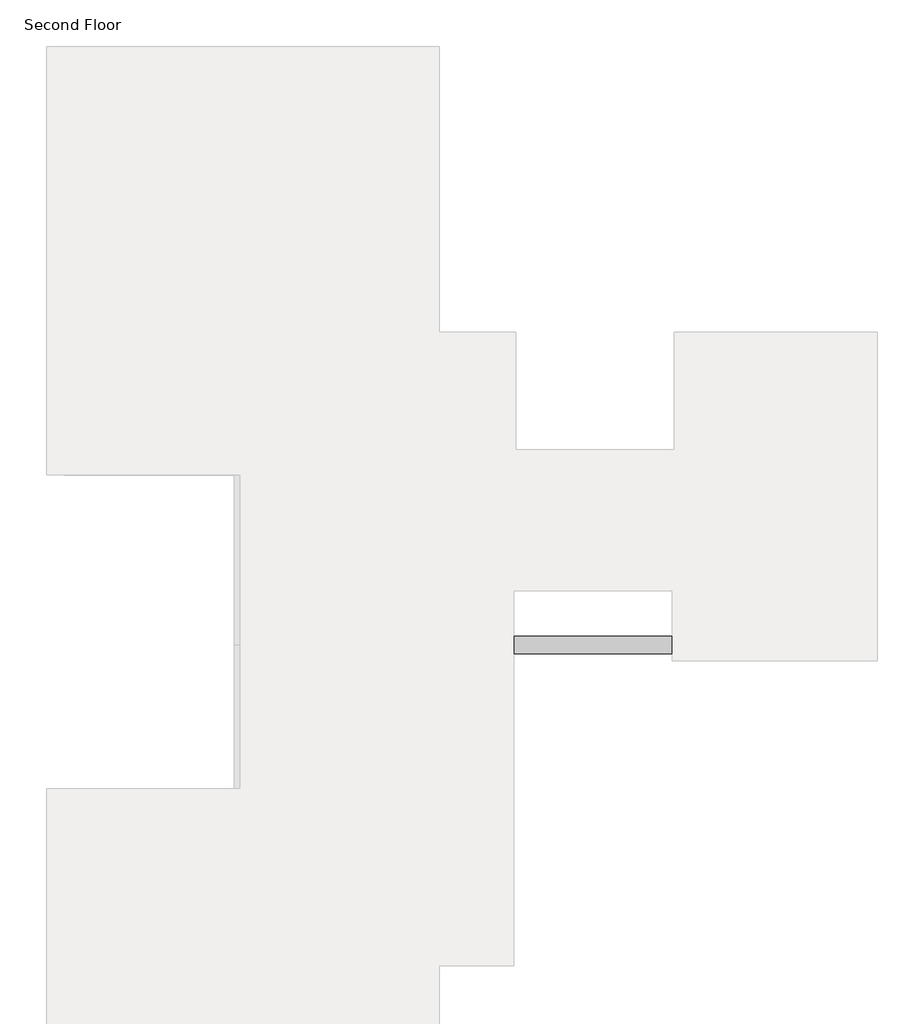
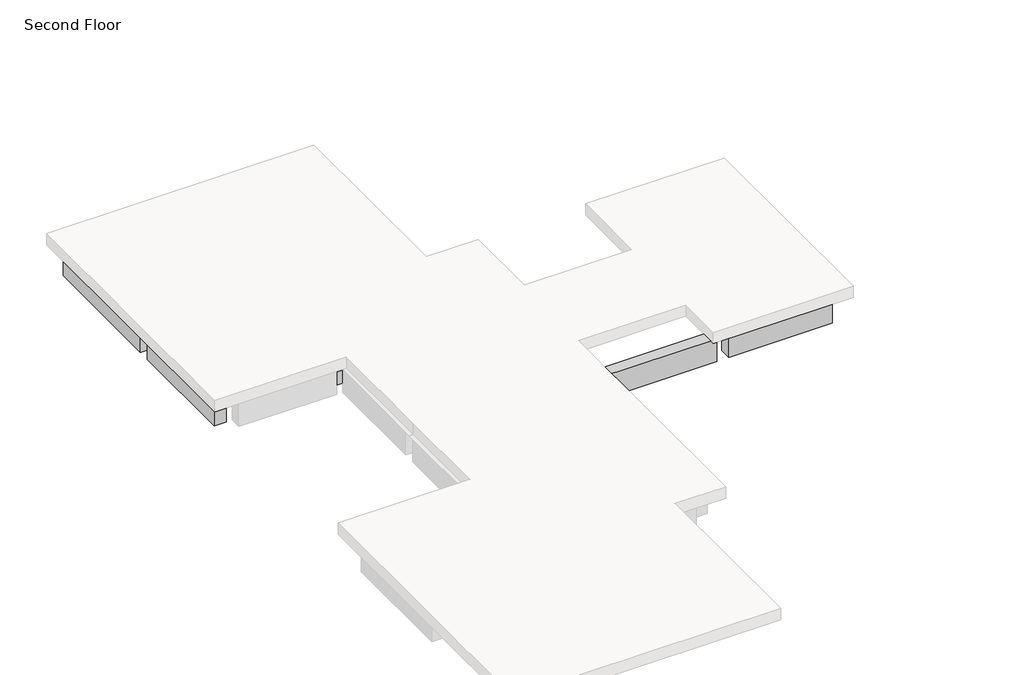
# One storey, part 2 of 2: 20 beams.
"""IFC4 building model written with IfcOpenShell, lengths in millimetres."""

from ifc_helpers import new_model, si_unit, frame, origin, place, context, project, spatial, polyline, outline, extrude, faceted_brep, element, save

model = new_model("IFC4")

# Units and contexts
model_context = context("Model", 3, world=origin())
ifc_project = project(units=[si_unit("LENGTHUNIT", "METRE", prefix="MILLI")], contexts=[model_context])

# Site, building, storey
site = spatial("IfcSite", under=ifc_project)
building = spatial("IfcBuilding", under=site)
storey = spatial("IfcBuildingStorey", under=building, Name="Second Floor", Elevation=3810.0)

# Beams
placement = place(None, origin())
element("IfcBeam", 1, ObjectType="M_Concrete-Rectangular Beam : 300 x 600mm", at=placement, inside=storey, context=model_context, shape_type="Brep", body=[
    faceted_brep([(-9783.3472303, 14876.016665, 3510.0), (-12831.3472303, 14876.016665, 3510.0), (-12831.3472303, 14726.016665, 3510.0), (-12831.3472303, 14576.016665, 3510.0), (-12681.3472303, 14576.016665, 3510.0), (-9933.3472303, 14576.016665, 3510.0), (-9783.3472303, 14576.016665, 3510.0), (-9783.3472303, 14726.016665, 3510.0), (-12831.3472303, 14576.016665, 3505.2), (-12531.3472303, 14576.016665, 3505.2), (-12531.3472303, 14576.016665, 2910.0), (-10083.3472303, 14576.016665, 2910.0), (-10083.3472303, 14576.016665, 3505.2), (-9783.3472303, 14576.016665, 3505.2), (-12531.3472303, 14876.016665, 2910.0), (-10083.3472303, 14876.016665, 2910.0), (-9783.3472303, 14876.016665, 3505.2), (-10083.3472303, 14876.016665, 3505.2), (-12531.3472303, 14876.016665, 3505.2), (-12831.3472303, 14876.016665, 3505.2), (-12831.3472303, 14726.016665, 3505.2), (-9783.3472303, 14726.016665, 3505.2)], [[[0, 1, 2, 3, 4, 5, 6, 7]], [[6, 5, 4, 3, 8, 9, 10, 11, 12, 13]], [[10, 14, 15, 11]], [[1, 0, 16, 17, 15, 14, 18, 19]], [[9, 18, 14, 10]], [[18, 9, 8, 20, 19]], [[17, 12, 11, 15]], [[12, 17, 16, 21, 13]], [[3, 2, 1, 19, 20, 8]], [[0, 7, 6, 13, 21, 16]]]),
])
element("IfcBeam", 2, ObjectType="M_Concrete-Rectangular Beam : 300 x 600mm", at=placement, inside=storey, context=model_context, shape_type="Brep", body=[
    faceted_brep([(-6735.3472303, 14876.016665, 3510.0), (-9783.3472303, 14876.016665, 3510.0), (-9783.3472303, 14726.016665, 3510.0), (-9633.3472303, 14726.016665, 3510.0), (-9633.3472303, 14576.016665, 3510.0), (-6885.3472303, 14576.016665, 3510.0), (-6735.3472303, 14576.016665, 3510.0), (-6735.3472303, 14726.016665, 3510.0), (-9483.3472303, 14576.016665, 3505.2), (-9483.3472303, 14576.016665, 2910.0), (-7035.3472303, 14576.016665, 2910.0), (-7035.3472303, 14576.016665, 3505.2), (-6735.3472303, 14576.016665, 3505.2), (-9633.3472303, 14576.016665, 3505.2), (-9483.3472303, 14876.016665, 2910.0), (-7035.3472303, 14876.016665, 2910.0), (-6735.3472303, 14876.016665, 3505.2), (-7035.3472303, 14876.016665, 3505.2), (-9483.3472303, 14876.016665, 3505.2), (-9783.3472303, 14876.016665, 3505.2), (-9633.3472303, 14726.016665, 3505.2), (-9783.3472303, 14726.016665, 3505.2), (-6735.3472303, 14726.016665, 3505.2)], [[[0, 1, 2, 3, 4, 5, 6, 7]], [[8, 9, 10, 11, 12, 6, 5, 4, 13]], [[9, 14, 15, 10]], [[1, 0, 16, 17, 15, 14, 18, 19]], [[8, 18, 14, 9]], [[18, 8, 13, 20, 21, 19]], [[17, 11, 10, 15]], [[11, 17, 16, 22, 12]], [[3, 20, 13, 4]], [[1, 19, 21, 2]], [[0, 7, 6, 12, 22, 16]], [[20, 3, 2, 21]]]),
])
element("IfcBeam", 3, ObjectType="M_Concrete-Rectangular Beam : 300 x 600mm", at=placement, inside=storey, context=model_context, shape_type="Brep", body=[
    faceted_brep([(-6585.3472303, 11069.016665, 3510.0), (-6585.3472303, 14726.016665, 3510.0), (-6735.3472303, 14726.016665, 3510.0), (-6735.3472303, 14576.016665, 3510.0), (-6885.3472303, 14576.016665, 3510.0), (-6885.3472303, 11219.016665, 3510.0), (-6885.3472303, 11069.016665, 3510.0), (-6735.3472303, 11069.016665, 3510.0), (-6885.3472303, 14576.016665, 2910.0), (-6885.3472303, 11219.016665, 2910.0), (-6885.3472303, 11219.016665, 3505.2), (-6885.3472303, 11069.016665, 3505.2), (-6585.3472303, 14576.016665, 2910.0), (-6585.3472303, 11219.016665, 2910.0), (-6585.3472303, 11069.016665, 3505.2), (-6585.3472303, 11219.016665, 3505.2), (-6585.3472303, 14576.016665, 3505.2), (-6585.3472303, 14726.016665, 3505.2), (-6735.3472303, 14576.016665, 3505.2), (-6735.3472303, 14726.016665, 3505.2), (-6735.3472303, 11069.016665, 3505.2)], [[[0, 1, 2, 3, 4, 5, 6, 7]], [[6, 5, 4, 8, 9, 10, 11]], [[8, 12, 13, 9]], [[1, 0, 14, 15, 13, 12, 16, 17]], [[4, 3, 18, 16, 12, 8]], [[16, 18, 19, 17]], [[15, 10, 9, 13]], [[10, 15, 14, 20, 11]], [[2, 1, 17, 19]], [[0, 7, 6, 11, 20, 14]], [[3, 2, 19, 18]]]),
])
element("IfcBeam", 4, ObjectType="M_Concrete-Rectangular Beam : 300 x 600mm", at=placement, inside=storey, context=model_context, shape_type="Brep", body=[
    faceted_brep([(-6585.3472303, 9700.016665, 3510.0), (-6585.3472303, 10000.016665, 3510.0), (-6585.3472303, 11069.016665, 3510.0), (-6735.3472303, 11069.016665, 3510.0), (-6735.3472303, 10919.016665, 3510.0), (-6885.3472303, 10919.016665, 3510.0), (-6885.3472303, 9700.016665, 3510.0), (-6885.3472303, 9700.016665, 2910.0), (-6885.3472303, 10919.016665, 2910.0), (-6585.3472303, 9700.016665, 2910.0), (-6585.3472303, 10919.016665, 2910.0), (-6585.3472303, 10000.016665, 2910.0), (-6585.3472303, 10919.016665, 3505.2), (-6585.3472303, 11069.016665, 3505.2), (-6735.3472303, 11069.016665, 3505.2), (-6735.3472303, 10919.016665, 3505.2)], [[[0, 1, 2, 3, 4, 5, 6]], [[7, 6, 5, 8]], [[9, 7, 8, 10, 11]], [[2, 1, 0, 9, 11, 10, 12, 13]], [[2, 13, 14, 3]], [[0, 6, 7, 9]], [[5, 4, 15, 12, 10, 8]], [[13, 12, 15, 14]], [[15, 4, 3, 14]]]),
])
element("IfcBeam", 5, ObjectType="M_Concrete-Rectangular Beam : 300 x 600mm", at=placement, inside=storey, context=model_context, shape_type="Brep", body=[
    faceted_brep([(-6585.3472303, 10000.016665, 3510.0), (-6585.3472303, 9700.016665, 3510.0), (-5666.3472303, 9700.016665, 3510.0), (-5516.3472303, 9700.016665, 3510.0), (-5516.3472303, 9850.016665, 3510.0), (-5516.3472303, 10000.016665, 3510.0), (-6585.3472303, 9700.016665, 2910.0), (-5816.3472303, 9700.016665, 2910.0), (-5816.3472303, 9700.016665, 3505.2), (-5516.3472303, 9700.016665, 3505.2), (-6585.3472303, 10000.016665, 2910.0), (-5816.3472303, 10000.016665, 2910.0), (-5516.3472303, 10000.016665, 3505.2), (-5816.3472303, 10000.016665, 3505.2), (-5516.3472303, 9850.016665, 3505.2)], [[[0, 1, 2, 3, 4, 5]], [[3, 2, 1, 6, 7, 8, 9]], [[6, 10, 11, 7]], [[10, 0, 5, 12, 13, 11]], [[1, 0, 10, 6]], [[13, 8, 7, 11]], [[8, 13, 12, 14, 9]], [[5, 4, 3, 9, 14, 12]]]),
])
element("IfcBeam", 6, ObjectType="M_Concrete-Rectangular Beam : 300 x 600mm", at=placement, inside=storey, context=model_context, shape_type="Brep", body=[
    faceted_brep([(-5366.3472303, 7869.016665, 3510.0), (-5366.3472303, 8019.016665, 3510.0), (-5366.3472303, 9850.016665, 3510.0), (-5516.3472303, 9850.016665, 3510.0), (-5516.3472303, 9700.016665, 3510.0), (-5666.3472303, 9700.016665, 3510.0), (-5666.3472303, 8019.016665, 3510.0), (-5666.3472303, 7869.016665, 3510.0), (-5516.3472303, 7869.016665, 3510.0), (-5666.3472303, 9700.016665, 2910.0), (-5666.3472303, 8019.016665, 2910.0), (-5666.3472303, 8019.016665, 3505.2), (-5666.3472303, 7869.016665, 3505.2), (-5366.3472303, 9700.016665, 2910.0), (-5366.3472303, 8019.016665, 2910.0), (-5366.3472303, 7869.016665, 3505.2), (-5366.3472303, 8019.016665, 3505.2), (-5366.3472303, 9700.016665, 3505.2), (-5366.3472303, 9850.016665, 3505.2), (-5516.3472303, 9700.016665, 3505.2), (-5516.3472303, 9850.016665, 3505.2), (-5516.3472303, 7869.016665, 3505.2)], [[[0, 1, 2, 3, 4, 5, 6, 7, 8]], [[7, 6, 5, 9, 10, 11, 12]], [[9, 13, 14, 10]], [[2, 1, 0, 15, 16, 14, 13, 17, 18]], [[5, 4, 19, 17, 13, 9]], [[17, 19, 20, 18]], [[16, 11, 10, 14]], [[11, 16, 15, 21, 12]], [[3, 2, 18, 20]], [[0, 8, 7, 12, 21, 15]], [[4, 3, 20, 19]]]),
])
element("IfcBeam", 7, ObjectType="M_Concrete-Rectangular Beam : 300 x 600mm", at=placement, inside=storey, context=model_context, shape_type="Brep", body=[
    faceted_brep([(-5366.3472303, 4821.016665, 3510.0), (-5366.3472303, 4971.016665, 3510.0), (-5366.3472303, 7719.016665, 3510.0), (-5366.3472303, 7869.016665, 3510.0), (-5516.3472303, 7869.016665, 3510.0), (-5516.3472303, 7719.016665, 3510.0), (-5666.3472303, 7719.016665, 3510.0), (-5666.3472303, 4971.016665, 3510.0), (-5666.3472303, 4821.016665, 3510.0), (-5516.3472303, 4821.016665, 3510.0), (-5666.3472303, 4971.016665, 2910.0), (-5666.3472303, 4971.016665, 3505.2), (-5666.3472303, 4821.016665, 3505.2), (-5666.3472303, 7719.016665, 2910.0), (-5366.3472303, 4971.016665, 2910.0), (-5366.3472303, 7719.016665, 2910.0), (-5366.3472303, 4821.016665, 3505.2), (-5366.3472303, 4971.016665, 3505.2), (-5366.3472303, 7719.016665, 3505.2), (-5366.3472303, 7869.016665, 3505.2), (-5516.3472303, 7719.016665, 3505.2), (-5516.3472303, 7869.016665, 3505.2), (-5516.3472303, 4821.016665, 3505.2)], [[[0, 1, 2, 3, 4, 5, 6, 7, 8, 9]], [[10, 11, 12, 8, 7, 6, 13]], [[14, 10, 13, 15]], [[3, 2, 1, 0, 16, 17, 14, 15, 18, 19]], [[6, 5, 20, 18, 15, 13]], [[19, 18, 20, 21]], [[17, 11, 10, 14]], [[11, 17, 16, 22, 12]], [[3, 19, 21, 4]], [[0, 9, 8, 12, 22, 16]], [[20, 5, 4, 21]]]),
])
element("IfcBeam", 8, ObjectType="M_Concrete-Rectangular Beam : 300 x 600mm", at=placement, inside=storey, context=model_context, shape_type="Brep", body=[
    faceted_brep([(-9783.3472303, 4671.016665, 3510.0), (-9633.3472303, 4671.016665, 3510.0), (-5666.3472303, 4671.016665, 3510.0), (-5516.3472303, 4671.016665, 3510.0), (-5516.3472303, 4821.016665, 3510.0), (-5666.3472303, 4821.016665, 3510.0), (-5666.3472303, 4971.016665, 3510.0), (-9633.3472303, 4971.016665, 3510.0), (-9783.3472303, 4971.016665, 3510.0), (-9783.3472303, 4821.016665, 3510.0), (-9483.3472303, 4971.016665, 2910.0), (-9483.3472303, 4971.016665, 3505.2), (-9783.3472303, 4971.016665, 3505.2), (-5666.3472303, 4971.016665, 3505.2), (-5816.3472303, 4971.016665, 3505.2), (-5816.3472303, 4971.016665, 2910.0), (-9483.3472303, 4671.016665, 2910.0), (-5816.3472303, 4671.016665, 2910.0), (-9783.3472303, 4671.016665, 3505.2), (-9483.3472303, 4671.016665, 3505.2), (-5816.3472303, 4671.016665, 3505.2), (-5516.3472303, 4671.016665, 3505.2), (-5666.3472303, 4821.016665, 3505.2), (-9783.3472303, 4821.016665, 3505.2), (-5516.3472303, 4821.016665, 3505.2)], [[[0, 1, 2, 3, 4, 5, 6, 7, 8, 9]], [[10, 11, 12, 8, 7, 6, 13, 14, 15]], [[16, 10, 15, 17]], [[3, 2, 1, 0, 18, 19, 16, 17, 20, 21]], [[6, 5, 22, 13]], [[19, 11, 10, 16]], [[11, 19, 18, 23, 12]], [[14, 20, 17, 15]], [[20, 14, 13, 22, 24, 21]], [[0, 9, 8, 12, 23, 18]], [[4, 3, 21, 24]], [[5, 4, 24, 22]]]),
])
element("IfcBeam", 9, ObjectType="M_Concrete-Rectangular Beam : 300 x 600mm", at=placement, inside=storey, context=model_context, shape_type="Brep", body=[
    faceted_brep([(-5666.3472303, 7869.016665, 3510.0), (-5666.3472303, 8019.016665, 3510.0), (-9633.3472303, 8019.016665, 3510.0), (-9783.3472303, 8019.016665, 3510.0), (-9783.3472303, 7869.016665, 3510.0), (-9633.3472303, 7869.016665, 3510.0), (-9633.3472303, 7719.016665, 3510.0), (-5666.3472303, 7719.016665, 3510.0), (-5516.3472303, 7719.016665, 3510.0), (-5516.3472303, 7869.016665, 3510.0), (-9633.3472303, 7719.016665, 3505.2), (-9483.3472303, 7719.016665, 3505.2), (-9483.3472303, 7719.016665, 2910.0), (-5816.3472303, 7719.016665, 2910.0), (-5816.3472303, 7719.016665, 3505.2), (-5516.3472303, 7719.016665, 3505.2), (-9483.3472303, 8019.016665, 2910.0), (-5816.3472303, 8019.016665, 2910.0), (-9483.3472303, 8019.016665, 3505.2), (-9783.3472303, 8019.016665, 3505.2), (-5666.3472303, 8019.016665, 3505.2), (-5816.3472303, 8019.016665, 3505.2), (-5666.3472303, 7869.016665, 3505.2), (-9633.3472303, 7869.016665, 3505.2), (-9783.3472303, 7869.016665, 3505.2), (-5516.3472303, 7869.016665, 3505.2)], [[[0, 1, 2, 3, 4, 5, 6, 7, 8, 9]], [[6, 10, 11, 12, 13, 14, 15, 8, 7]], [[12, 16, 17, 13]], [[16, 18, 19, 3, 2, 1, 20, 21, 17]], [[1, 0, 22, 20]], [[6, 5, 23, 10]], [[11, 18, 16, 12]], [[18, 11, 10, 23, 24, 19]], [[21, 14, 13, 17]], [[14, 21, 20, 22, 25, 15]], [[4, 3, 19, 24]], [[9, 8, 15, 25]], [[0, 9, 25, 22]], [[5, 4, 24, 23]]]),
])
element("IfcBeam", 10, ObjectType="M_Concrete-Rectangular Beam : 300 x 600mm", at=placement, inside=storey, context=model_context, shape_type="Brep", body=[
    faceted_brep([(-9933.3472303, 11069.016665, 3510.0), (-9933.3472303, 10919.016665, 3510.0), (-9933.3472303, 8019.016665, 3510.0), (-9933.3472303, 7869.016665, 3510.0), (-9783.3472303, 7869.016665, 3510.0), (-9783.3472303, 8019.016665, 3510.0), (-9633.3472303, 8019.016665, 3510.0), (-9633.3472303, 10919.016665, 3510.0), (-9633.3472303, 11069.016665, 3510.0), (-9783.3472303, 11069.016665, 3510.0), (-9633.3472303, 10919.016665, 2910.0), (-9633.3472303, 10919.016665, 3505.2), (-9633.3472303, 11069.016665, 3505.2), (-9633.3472303, 8019.016665, 2910.0), (-9933.3472303, 10919.016665, 2910.0), (-9933.3472303, 8019.016665, 2910.0), (-9933.3472303, 11069.016665, 3505.2), (-9933.3472303, 10919.016665, 3505.2), (-9933.3472303, 8019.016665, 3505.2), (-9933.3472303, 7869.016665, 3505.2), (-9783.3472303, 8019.016665, 3505.2), (-9783.3472303, 11069.016665, 3505.2), (-9783.3472303, 7869.016665, 3505.2)], [[[0, 1, 2, 3, 4, 5, 6, 7, 8, 9]], [[10, 11, 12, 8, 7, 6, 13]], [[14, 10, 13, 15]], [[3, 2, 1, 0, 16, 17, 14, 15, 18, 19]], [[6, 5, 20, 18, 15, 13]], [[17, 11, 10, 14]], [[11, 17, 16, 21, 12]], [[18, 20, 22, 19]], [[0, 9, 8, 12, 21, 16]], [[4, 3, 19, 22]], [[5, 4, 22, 20]]]),
])
element("IfcBeam", 11, ObjectType="M_Concrete-Rectangular Beam : 300 x 600mm", at=placement, inside=storey, context=model_context, shape_type="Brep", body=[
    faceted_brep([(-6885.3472303, 11069.016665, 3510.0), (-6885.3472303, 11219.016665, 3510.0), (-9633.3472303, 11219.016665, 3510.0), (-9783.3472303, 11219.016665, 3510.0), (-9783.3472303, 11069.016665, 3510.0), (-9633.3472303, 11069.016665, 3510.0), (-9633.3472303, 10919.016665, 3510.0), (-6885.3472303, 10919.016665, 3510.0), (-6735.3472303, 10919.016665, 3510.0), (-6735.3472303, 11069.016665, 3510.0), (-9633.3472303, 10919.016665, 3505.2), (-9483.3472303, 10919.016665, 3505.2), (-9483.3472303, 10919.016665, 2910.0), (-7035.3472303, 10919.016665, 2910.0), (-7035.3472303, 10919.016665, 3505.2), (-6735.3472303, 10919.016665, 3505.2), (-9483.3472303, 11219.016665, 2910.0), (-7035.3472303, 11219.016665, 2910.0), (-9483.3472303, 11219.016665, 3505.2), (-9783.3472303, 11219.016665, 3505.2), (-6885.3472303, 11219.016665, 3505.2), (-7035.3472303, 11219.016665, 3505.2), (-6885.3472303, 11069.016665, 3505.2), (-9633.3472303, 11069.016665, 3505.2), (-9783.3472303, 11069.016665, 3505.2), (-6735.3472303, 11069.016665, 3505.2)], [[[0, 1, 2, 3, 4, 5, 6, 7, 8, 9]], [[6, 10, 11, 12, 13, 14, 15, 8, 7]], [[12, 16, 17, 13]], [[16, 18, 19, 3, 2, 1, 20, 21, 17]], [[1, 0, 22, 20]], [[6, 5, 23, 10]], [[11, 18, 16, 12]], [[18, 11, 10, 23, 24, 19]], [[21, 14, 13, 17]], [[14, 21, 20, 22, 25, 15]], [[4, 3, 19, 24]], [[9, 8, 15, 25]], [[0, 9, 25, 22]], [[5, 4, 24, 23]]]),
])
element("IfcBeam", 12, ObjectType="M_Concrete-Rectangular Beam : 300 x 600mm", at=placement, inside=storey, context=model_context, shape_type="Brep", body=[
    faceted_brep([(-9783.3472303, 14576.016665, 3510.0), (-9933.3472303, 14576.016665, 3510.0), (-9933.3472303, 11219.016665, 3510.0), (-9933.3472303, 11069.016665, 3510.0), (-9783.3472303, 11069.016665, 3510.0), (-9783.3472303, 11219.016665, 3510.0), (-9633.3472303, 11219.016665, 3510.0), (-9633.3472303, 14576.016665, 3510.0), (-9633.3472303, 14726.016665, 3510.0), (-9783.3472303, 14726.016665, 3510.0), (-9633.3472303, 11219.016665, 2910.0), (-9633.3472303, 14576.016665, 2910.0), (-9633.3472303, 14576.016665, 3505.2), (-9633.3472303, 14726.016665, 3505.2), (-9933.3472303, 11219.016665, 2910.0), (-9933.3472303, 14576.016665, 2910.0), (-9933.3472303, 11219.016665, 3505.2), (-9933.3472303, 11069.016665, 3505.2), (-9783.3472303, 14576.016665, 3505.2), (-9783.3472303, 11219.016665, 3505.2), (-9783.3472303, 14726.016665, 3505.2), (-9783.3472303, 11069.016665, 3505.2)], [[[0, 1, 2, 3, 4, 5, 6, 7, 8, 9]], [[8, 7, 6, 10, 11, 12, 13]], [[10, 14, 15, 11]], [[3, 2, 1, 15, 14, 16, 17]], [[1, 0, 18, 12, 11, 15]], [[6, 5, 19, 16, 14, 10]], [[12, 18, 20, 13]], [[16, 19, 21, 17]], [[9, 8, 13, 20]], [[4, 3, 17, 21]], [[0, 9, 20, 18]], [[5, 4, 21, 19]]]),
])
element("IfcBeam", 13, ObjectType="M_Concrete-Rectangular Beam : 300 x 600mm", at=placement, inside=storey, context=model_context, shape_type="Brep", body=[
    faceted_brep([(-12981.3472303, 14726.016665, 3510.0), (-12981.3472303, 11069.016665, 3510.0), (-12831.3472303, 11069.016665, 3510.0), (-12681.3472303, 11069.016665, 3510.0), (-12681.3472303, 11219.016665, 3510.0), (-12681.3472303, 14576.016665, 3510.0), (-12831.3472303, 14576.016665, 3510.0), (-12831.3472303, 14726.016665, 3510.0), (-12981.3472303, 14726.016665, 3505.2), (-12981.3472303, 14576.016665, 3505.2), (-12981.3472303, 14576.016665, 2910.0), (-12981.3472303, 11219.016665, 2910.0), (-12981.3472303, 11219.016665, 3505.2), (-12981.3472303, 11069.016665, 3505.2), (-12681.3472303, 14576.016665, 2910.0), (-12681.3472303, 11219.016665, 2910.0), (-12681.3472303, 11069.016665, 3505.2), (-12681.3472303, 11219.016665, 3505.2), (-12831.3472303, 14576.016665, 3505.2), (-12831.3472303, 14726.016665, 3505.2), (-12831.3472303, 11069.016665, 3505.2)], [[[0, 1, 2, 3, 4, 5, 6, 7]], [[1, 0, 8, 9, 10, 11, 12, 13]], [[10, 14, 15, 11]], [[5, 4, 3, 16, 17, 15, 14]], [[6, 5, 14, 10, 9, 18]], [[18, 9, 8, 19]], [[17, 12, 11, 15]], [[12, 17, 16, 20, 13]], [[0, 7, 19, 8]], [[3, 2, 1, 13, 20, 16]], [[7, 6, 18, 19]]]),
])
element("IfcBeam", 14, ObjectType="M_Concrete-Rectangular Beam : 300 x 600mm", at=placement, inside=storey, context=model_context, shape_type="Brep", body=[
    faceted_brep([(-12681.3472303, 11219.016665, 3510.0), (-12681.3472303, 11069.016665, 3510.0), (-12831.3472303, 11069.016665, 3510.0), (-12831.3472303, 10919.016665, 3510.0), (-12681.3472303, 10919.016665, 3510.0), (-9933.3472303, 10919.016665, 3510.0), (-9933.3472303, 11069.016665, 3510.0), (-9933.3472303, 11219.016665, 3510.0), (-12531.3472303, 10919.016665, 3505.2), (-12531.3472303, 10919.016665, 2910.0), (-10083.3472303, 10919.016665, 2910.0), (-10083.3472303, 10919.016665, 3505.2), (-9933.3472303, 10919.016665, 3505.2), (-12831.3472303, 10919.016665, 3505.2), (-12531.3472303, 11219.016665, 2910.0), (-10083.3472303, 11219.016665, 2910.0), (-12681.3472303, 11219.016665, 3505.2), (-9933.3472303, 11219.016665, 3505.2), (-10083.3472303, 11219.016665, 3505.2), (-12531.3472303, 11219.016665, 3505.2), (-9933.3472303, 11069.016665, 3505.2), (-12681.3472303, 11069.016665, 3505.2), (-12831.3472303, 11069.016665, 3505.2)], [[[0, 1, 2, 3, 4, 5, 6, 7]], [[8, 9, 10, 11, 12, 5, 4, 3, 13]], [[9, 14, 15, 10]], [[16, 0, 7, 17, 18, 15, 14, 19]], [[7, 6, 5, 12, 20, 17]], [[1, 0, 16, 21]], [[8, 19, 14, 9]], [[19, 8, 13, 22, 21, 16]], [[18, 11, 10, 15]], [[11, 18, 17, 20, 12]], [[3, 2, 22, 13]], [[2, 1, 21, 22]]]),
])
element("IfcBeam", 15, ObjectType="M_Concrete-Rectangular Beam : 300 x 600mm", at=placement, inside=storey, context=model_context, shape_type="Brep", body=[
    faceted_brep([(-12981.3472303, 11069.016665, 3510.0), (-12981.3472303, 7869.016665, 3510.0), (-12831.3472303, 7869.016665, 3510.0), (-12681.3472303, 7869.016665, 3510.0), (-12681.3472303, 8019.016665, 3510.0), (-12681.3472303, 10919.016665, 3510.0), (-12831.3472303, 10919.016665, 3510.0), (-12831.3472303, 11069.016665, 3510.0), (-12981.3472303, 11069.016665, 3505.2), (-12981.3472303, 10919.016665, 3505.2), (-12981.3472303, 10919.016665, 2910.0), (-12981.3472303, 8019.016665, 2910.0), (-12981.3472303, 8019.016665, 3505.2), (-12981.3472303, 7869.016665, 3505.2), (-12681.3472303, 10919.016665, 2910.0), (-12681.3472303, 8019.016665, 2910.0), (-12681.3472303, 7869.016665, 3505.2), (-12681.3472303, 8019.016665, 3505.2), (-12831.3472303, 10919.016665, 3505.2), (-12831.3472303, 11069.016665, 3505.2), (-12831.3472303, 7869.016665, 3505.2)], [[[0, 1, 2, 3, 4, 5, 6, 7]], [[1, 0, 8, 9, 10, 11, 12, 13]], [[10, 14, 15, 11]], [[5, 4, 3, 16, 17, 15, 14]], [[6, 5, 14, 10, 9, 18]], [[18, 9, 8, 19]], [[17, 12, 11, 15]], [[12, 17, 16, 20, 13]], [[0, 7, 19, 8]], [[3, 2, 1, 13, 20, 16]], [[7, 6, 18, 19]]]),
])
element("IfcBeam", 16, ObjectType="M_Concrete-Rectangular Beam : 300 x 600mm", at=placement, inside=storey, context=model_context, shape_type="Brep", body=[
    faceted_brep([(-5366.3472303, 1773.016665, 3510.0), (-5366.3472303, 4671.016665, 3510.0), (-5366.3472303, 4821.016665, 3510.0), (-5516.3472303, 4821.016665, 3510.0), (-5516.3472303, 4671.016665, 3510.0), (-5666.3472303, 4671.016665, 3510.0), (-5666.3472303, 1923.016665, 3510.0), (-5666.3472303, 1773.016665, 3510.0), (-5516.3472303, 1773.016665, 3510.0), (-5666.3472303, 4671.016665, 2910.0), (-5666.3472303, 1923.016665, 2910.0), (-5666.3472303, 1923.016665, 3505.2), (-5666.3472303, 1773.016665, 3505.2), (-5366.3472303, 4671.016665, 2910.0), (-5366.3472303, 1923.016665, 2910.0), (-5366.3472303, 1773.016665, 3505.2), (-5366.3472303, 1923.016665, 3505.2), (-5366.3472303, 4671.016665, 3505.2), (-5366.3472303, 4821.016665, 3505.2), (-5516.3472303, 4671.016665, 3505.2), (-5516.3472303, 4821.016665, 3505.2), (-5516.3472303, 1773.016665, 3505.2)], [[[0, 1, 2, 3, 4, 5, 6, 7, 8]], [[7, 6, 5, 9, 10, 11, 12]], [[9, 13, 14, 10]], [[2, 1, 0, 15, 16, 14, 13, 17, 18]], [[5, 4, 19, 17, 13, 9]], [[17, 19, 20, 18]], [[16, 11, 10, 14]], [[11, 16, 15, 21, 12]], [[3, 2, 18, 20]], [[0, 8, 7, 12, 21, 15]], [[4, 3, 20, 19]]]),
])
element("IfcBeam", 17, ObjectType="M_Concrete-Rectangular Beam : 300 x 600mm", at=placement, inside=storey, context=model_context, shape_type="Brep", body=[
    faceted_brep([(-2463.3472303, 8019.016665, 3510.0), (-5366.3472303, 8019.016665, 3510.0), (-5366.3472303, 7869.016665, 3510.0), (-5366.3472303, 7719.016665, 3510.0), (-2463.3472303, 7719.016665, 3510.0), (-5366.3472303, 7719.016665, 3505.2), (-5216.3472303, 7719.016665, 3505.2), (-5216.3472303, 7719.016665, 2910.0), (-2463.3472303, 7719.016665, 2910.0), (-2463.3472303, 8019.016665, 2910.0), (-5216.3472303, 8019.016665, 2910.0), (-5216.3472303, 8019.016665, 3505.2), (-5366.3472303, 8019.016665, 3505.2), (-5366.3472303, 7869.016665, 3505.2)], [[[0, 1, 2, 3, 4]], [[4, 3, 5, 6, 7, 8]], [[9, 8, 7, 10]], [[1, 0, 9, 10, 11, 12]], [[0, 4, 8, 9]], [[3, 2, 1, 12, 13, 5]], [[6, 11, 10, 7]], [[11, 6, 5, 13, 12]]]),
])
element("IfcBeam", 18, ObjectType="M_Concrete-Rectangular Beam : 300 x 600mm", at=placement, inside=storey, context=model_context, shape_type="Brep", body=[
    faceted_brep([(-2313.3472303, 4671.016665, 3510.0), (-2313.3472303, 4971.016665, 3510.0), (-5366.3472303, 4971.016665, 3510.0), (-5366.3472303, 4821.016665, 3510.0), (-5366.3472303, 4671.016665, 3510.0), (-2313.3472303, 4671.016665, 2910.0), (-5366.3472303, 4671.016665, 3505.2), (-5216.3472303, 4671.016665, 3505.2), (-5216.3472303, 4671.016665, 2910.0), (-2313.3472303, 4971.016665, 2910.0), (-5216.3472303, 4971.016665, 2910.0), (-5216.3472303, 4971.016665, 3505.2), (-5366.3472303, 4971.016665, 3505.2), (-5366.3472303, 4821.016665, 3505.2)], [[[0, 1, 2, 3, 4]], [[5, 0, 4, 6, 7, 8]], [[9, 5, 8, 10]], [[1, 9, 10, 11, 12, 2]], [[1, 0, 5, 9]], [[2, 12, 13, 6, 4, 3]], [[7, 11, 10, 8]], [[11, 7, 6, 13, 12]]]),
])
element("IfcBeam", 19, ObjectType="M_Concrete-Rectangular Beam : 300 x 600mm", at=placement, inside=storey, context=model_context, shape_type="SweptSolid", body=[
    extrude(outline(polyline([(-1863.3472303, 7719.016665), (-1863.3472303, 8019.016665), (432.6527697, 8019.016665), (432.6527697, 7719.016665), (-1863.3472303, 7719.016665)])), frame((0.0, 0.0, 2910.0), z_axis=(0.0, 0.0, 1.0), x_axis=(1.0, 0.0, 0.0)), (0.0, 0.0, 1.0), 600.0),
])
element("IfcBeam", 20, ObjectType="M_Concrete-Rectangular Beam : 300 x 600mm", at=placement, inside=storey, context=model_context, shape_type="SweptSolid", body=[
    extrude(outline(polyline([(582.6527697, 4971.016665), (582.6527697, 4671.016665), (-2013.3472303, 4671.016665), (-2013.3472303, 4971.016665), (582.6527697, 4971.016665)])), frame((0.0, 0.0, 2910.0), z_axis=(0.0, 0.0, 1.0), x_axis=(1.0, 0.0, 0.0)), (0.0, 0.0, 1.0), 600.0),
])

save(model, "model.ifc")
